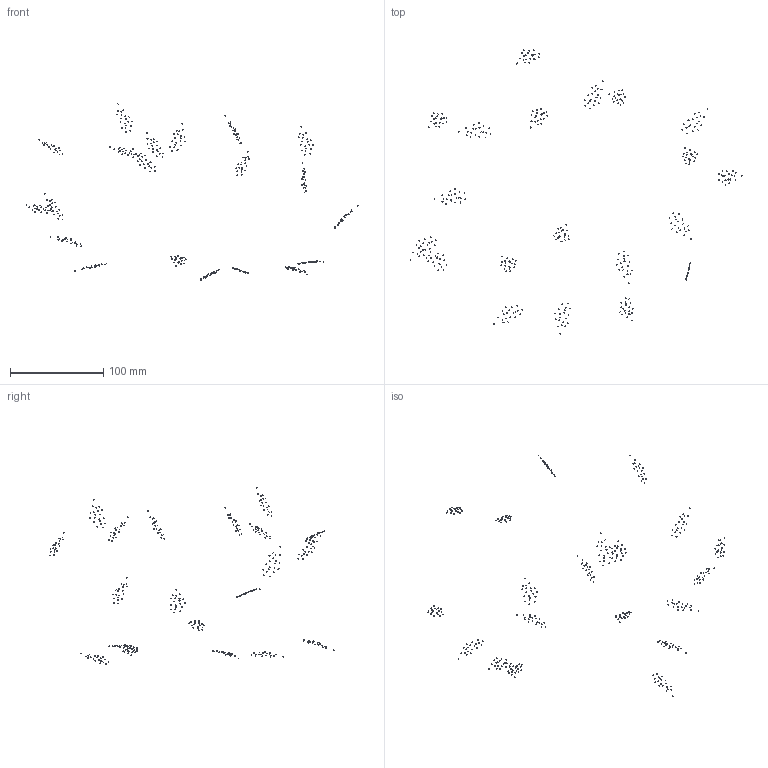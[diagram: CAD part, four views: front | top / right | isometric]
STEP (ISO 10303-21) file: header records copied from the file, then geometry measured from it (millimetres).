
FILE_DESCRIPTION(('Open CASCADE Model'),'2;1');
FILE_NAME('Open CASCADE Shape Model','2026-10-16T05:26:23',('Author'),( 'Open CASCADE'),'Open CASCADE STEP processor 7.9','Open CASCADE 7.9' ,'Unknown');
FILE_SCHEMA(('AUTOMOTIVE_DESIGN { 1 0 10303 214 1 1 1 1 }'));
Length unit declared in the file: millimetre
Products named in the file (401): Open CASCADE STEP translator 7.9 14; Open CASCADE STEP translator 7.9 14.1; Open CASCADE STEP translator 7.9 14.2; Open CASCADE STEP translator 7.9 14.3; Open CASCADE STEP translator 7.9 14.4; Open CASCADE STEP translator 7.9 14.5; Open CASCADE STEP translator 7.9 14.6; Open CASCADE STEP translator 7.9 14.7; Open CASCADE STEP translator 7.9 14.8; Open CASCADE STEP translator 7.9 14.9; Open CASCADE STEP translator 7.9 14.10; Open CASCADE STEP translator 7.9 14.11; Open CASCADE STEP translator 7.9 14.12; Open CASCADE STEP translator 7.9 14.13; Open CASCADE STEP translator 7.9 14.14; Open CASCADE STEP translator 7.9 14.15; Open CASCADE STEP translator 7.9 14.16; Open CASCADE STEP translator 7.9 14.17; Open CASCADE STEP translator 7.9 14.18; Open CASCADE STEP translator 7.9 14.19; Open CASCADE STEP translator 7.9 14.20; Open CASCADE STEP translator 7.9 14.21; Open CASCADE STEP translator 7.9 14.22; Open CASCADE STEP translator 7.9 14.23; Open CASCADE STEP translator 7.9 14.24; Open CASCADE STEP translator 7.9 14.25; Open CASCADE STEP translator 7.9 14.26; Open CASCADE STEP translator 7.9 14.27; Open CASCADE STEP translator 7.9 14.28; Open CASCADE STEP translator 7.9 14.29; Open CASCADE STEP translator 7.9 14.30; Open CASCADE STEP translator 7.9 14.31; Open CASCADE STEP translator 7.9 14.32; Open CASCADE STEP translator 7.9 14.33; Open CASCADE STEP translator 7.9 14.34; Open CASCADE STEP translator 7.9 14.35; Open CASCADE STEP translator 7.9 14.36; Open CASCADE STEP translator 7.9 14.37; Open CASCADE STEP translator 7.9 14.38; Open CASCADE STEP translator 7.9 14.39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
Assembly tree (400 placements, depth 2):
  Open CASCADE STEP translator 7.9 14
    Open CASCADE STEP translator 7.9 14.1
    Open CASCADE STEP translator 7.9 14.2
    Open CASCADE STEP translator 7.9 14.3
    Open CASCADE STEP translator 7.9 14.4
    Open CASCADE STEP translator 7.9 14.5
    Open CASCADE STEP translator 7.9 14.6
    Open CASCADE STEP translator 7.9 14.7
    Open CASCADE STEP translator 7.9 14.8
    Open CASCADE STEP translator 7.9 14.9
    Open CASCADE STEP translator 7.9 14.10
    Open CASCADE STEP translator 7.9 14.11
    Open CASCADE STEP translator 7.9 14.12
    Open CASCADE STEP translator 7.9 14.13
    Open CASCADE STEP translator 7.9 14.14
    Open CASCADE STEP translator 7.9 14.15
    Open CASCADE STEP translator 7.9 14.16
    Open CASCADE STEP translator 7.9 14.17
    Open CASCADE STEP translator 7.9 14.18
    Open CASCADE STEP translator 7.9 14.19
    Open CASCADE STEP translator 7.9 14.20
    Open CASCADE STEP translator 7.9 14.21
    Open CASCADE STEP translator 7.9 14.22
    Open CASCADE STEP translator 7.9 14.23
    Open CASCADE STEP translator 7.9 14.24
    Open CASCADE STEP translator 7.9 14.25
    Open CASCADE STEP translator 7.9 14.26
    Open CASCADE STEP translator 7.9 14.27
    Open CASCADE STEP translator 7.9 14.28
    Open CASCADE STEP translator 7.9 14.29
    Open CASCADE STEP translator 7.9 14.30
    Open CASCADE STEP translator 7.9 14.31
    Open CASCADE STEP translator 7.9 14.32
    Open CASCADE STEP translator 7.9 14.33
    Open CASCADE STEP translator 7.9 14.34
    Open CASCADE STEP translator 7.9 14.35
    Open CASCADE STEP translator 7.9 14.36
    Open CASCADE STEP translator 7.9 14.37
    Open CASCADE STEP translator 7.9 14.38
    Open CASCADE STEP translator 7.9 14.39
    Open CASCADE STEP translator 7.9 14.40
    Open CASCADE STEP translator 7.9 14.41
    Open CASCADE STEP translator 7.9 14.42
    Open CASCADE STEP translator 7.9 14.43
    Open CASCADE STEP translator 7.9 14.44
    Open CASCADE STEP translator 7.9 14.45
    Open CASCADE STEP translator 7.9 14.46
    Open CASCADE STEP translator 7.9 14.47
    Open CASCADE STEP translator 7.9 14.48
    Open CASCADE STEP translator 7.9 14.49
    Open CASCADE STEP translator 7.9 14.50
    Open CASCADE STEP translator 7.9 14.51
    Open CASCADE STEP translator 7.9 14.52
    Open CASCADE STEP translator 7.9 14.53
    Open CASCADE STEP translator 7.9 14.54
    Open CASCADE STEP translator 7.9 14.55
    Open CASCADE STEP translator 7.9 14.56
    Open CASCADE STEP translator 7.9 14.57
    Open CASCADE STEP translator 7.9 14.58
    Open CASCADE STEP translator 7.9 14.59
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Bounding box: 355.88 x 304.43 x 189.62 mm (x, y, z)
Volume: 70 mm3; surface area: 820 mm2
Topology: 400 solids, 400 shells, 2400 faces, 4800 edges, 3200 vertices
Faces by surface type: plane 2400
Entity records: 129616 total; most frequent: CARTESIAN_POINT 20401, DIRECTION 20002, LINE 14400, VECTOR 14400, ORIENTED_EDGE 9600, PCURVE 9600, DEFINITIONAL_REPRESENTATION 9600, EDGE_CURVE 4800
